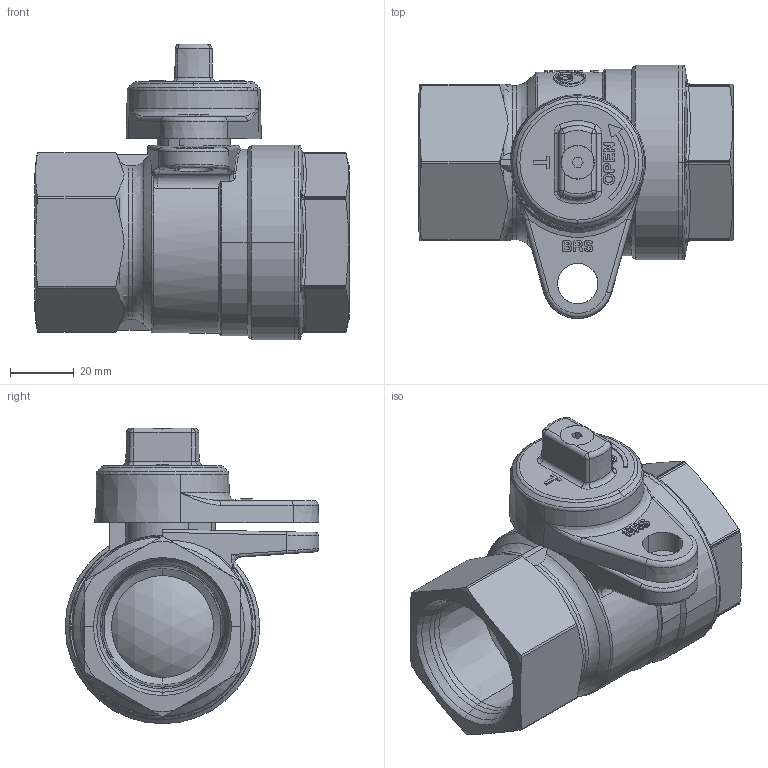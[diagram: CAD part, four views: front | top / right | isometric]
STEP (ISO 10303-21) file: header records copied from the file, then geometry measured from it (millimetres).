
FILE_DESCRIPTION(('Open CASCADE Model'),'2;1');
FILE_NAME('Open CASCADE Shape Model','2021-11-24T14:20:52',('Author'),( 'Open CASCADE'),'Open CASCADE STEP processor 7.3','Open CASCADE 7.3' ,'Unknown');
FILE_SCHEMA(('AUTOMOTIVE_DESIGN { 1 0 10303 214 1 1 1 1 }'));
Length unit declared in the file: millimetre
Products named in the file (19): Open CASCADE STEP translator 7.3 1; Open CASCADE STEP translator 7.3 1.1; Open CASCADE STEP translator 7.3 1.2; Open CASCADE STEP translator 7.3 1.3; Open CASCADE STEP translator 7.3 1.4; Open CASCADE STEP translator 7.3 1.5; Open CASCADE STEP translator 7.3 1.6; Open CASCADE STEP translator 7.3 1.7; Open CASCADE STEP translator 7.3 1.8; Open CASCADE STEP translator 7.3 1.9; Open CASCADE STEP translator 7.3 1.10; Open CASCADE STEP translator 7.3 1.11; Open CASCADE STEP translator 7.3 1.12; Open CASCADE STEP translator 7.3 1.13; Open CASCADE STEP translator 7.3 1.14; Open CASCADE STEP translator 7.3 1.15; Open CASCADE STEP translator 7.3 1.16; Open CASCADE STEP translator 7.3 1.17; Open CASCADE STEP translator 7.3 1.18
Assembly tree (18 placements, depth 2):
  Open CASCADE STEP translator 7.3 1
    Open CASCADE STEP translator 7.3 1.1
    Open CASCADE STEP translator 7.3 1.2
    Open CASCADE STEP translator 7.3 1.3
    Open CASCADE STEP translator 7.3 1.4
    Open CASCADE STEP translator 7.3 1.5
    Open CASCADE STEP translator 7.3 1.6
    Open CASCADE STEP translator 7.3 1.7
    Open CASCADE STEP translator 7.3 1.8
    Open CASCADE STEP translator 7.3 1.9
    Open CASCADE STEP translator 7.3 1.10
    Open CASCADE STEP translator 7.3 1.11
    Open CASCADE STEP translator 7.3 1.12
    Open CASCADE STEP translator 7.3 1.13
    Open CASCADE STEP translator 7.3 1.14
    Open CASCADE STEP translator 7.3 1.15
    Open CASCADE STEP translator 7.3 1.16
    Open CASCADE STEP translator 7.3 1.17
    Open CASCADE STEP translator 7.3 1.18
Bounding box: 98.47 x 79.49 x 92.7 mm (x, y, z)
Volume: 162416.9 mm3; surface area: 85625.9 mm2
Topology: 11 solids, 18 shells, 831 faces, 2067 edges, 1299 vertices
Faces by surface type: plane 218, cylinder 178, extrusion 170, cone 113, torus 75, bspline 51, revolution 16, sphere 10
Entity records: 75498 total; most frequent: CARTESIAN_POINT 37413, DIRECTION 5846, ORIENTED_EDGE 4100, PCURVE 4100, DEFINITIONAL_REPRESENTATION 4100, VECTOR 3127, LINE 2957, B_SPLINE_CURVE_WITH_KNOTS 2472
